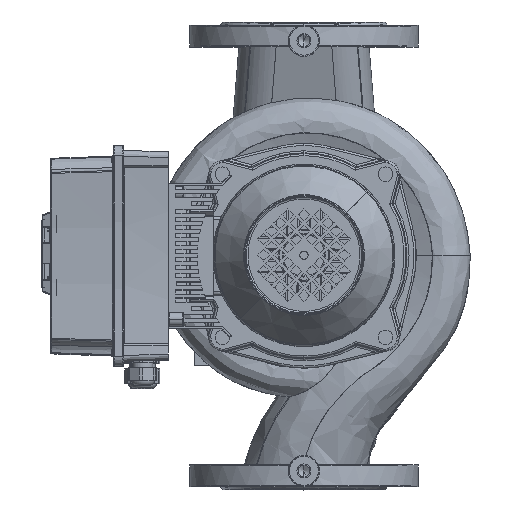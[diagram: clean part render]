
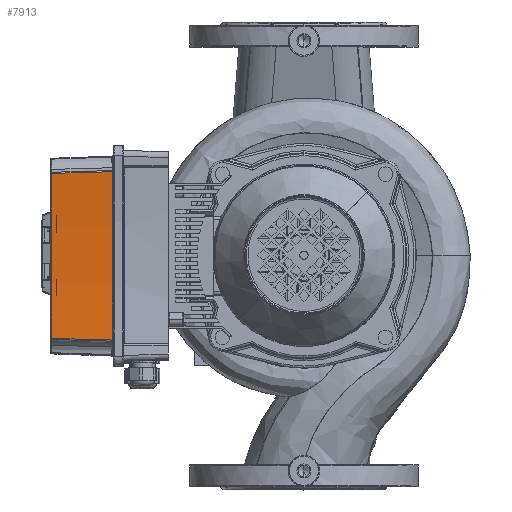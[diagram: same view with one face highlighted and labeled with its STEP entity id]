
A CAD part, top view. The second image highlights one B-rep face of the part: STEP entity #7913.
In plain terms, the highlighted conical face has half-angle 2 degrees and reference radius 845 mm.
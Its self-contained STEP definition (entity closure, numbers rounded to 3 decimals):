
#7913=ADVANCED_FACE('',(#16915),#16916,.F.);
#16915=FACE_OUTER_BOUND('',#37389,.T.);
#16916=CONICAL_SURFACE('',#37390,845.0,0.035);
#37389=EDGE_LOOP('',(#64779,#64780,#64781,#64782));
#37390=AXIS2_PLACEMENT_3D('',#64783,#64784,#64785);
#64779=ORIENTED_EDGE('',*,*,#105641,.F.);
#64780=ORIENTED_EDGE('',*,*,#105696,.F.);
#64781=ORIENTED_EDGE('',*,*,#105657,.F.);
#64782=ORIENTED_EDGE('',*,*,#105685,.F.);
#64783=CARTESIAN_POINT('',(-110.0,1132.065,60.0));
#64784=DIRECTION('',(0.,-0.0,-1.0));
#64785=DIRECTION('',(1.0,0.0,0.));
#105641=EDGE_CURVE('',#134825,#134831,#134832,.T.);
#105657=EDGE_CURVE('',#134852,#134844,#134854,.T.);
#105685=EDGE_CURVE('',#134831,#134852,#134884,.T.);
#105696=EDGE_CURVE('',#134844,#134825,#134896,.T.);
#134825=VERTEX_POINT('',#159885);
#134831=VERTEX_POINT('',#159927);
#134832=B_SPLINE_CURVE_WITH_KNOTS('',3,(#159928,#159929,#159930,#159931,#159932,#159933,#159934,#159935,#159936,#159937,#159938,#159939,#159940,#159941,#159942,#159943,#159944,#159945,#159946,#159947,#159948,#159949,#159950,#159951,#159952),.UNSPECIFIED.,.F.,.F.,(4,3,3,3,3,3,3,3,4),(-60.14,-51.629,-41.43,-35.057,-31.073,-27.089,-20.715,-10.517,-2.006),.UNSPECIFIED.);
#134844=VERTEX_POINT('',#160041);
#134852=VERTEX_POINT('',#160102);
#134854=B_SPLINE_CURVE_WITH_KNOTS('',3,(#160117,#160118,#160119,#160120,#160121,#160122,#160123,#160124,#160125,#160126,#160127,#160128,#160129,#160130,#160131,#160132,#160133,#160134,#160135,#160136,#160137,#160138,#160139,#160140,#160141),.UNSPECIFIED.,.F.,.F.,(4,3,3,3,3,3,3,3,4),(2.006,10.517,20.716,27.09,31.073,35.057,41.431,51.63,60.14),.UNSPECIFIED.);
#134884=CIRCLE('',#160332,847.062);
#134896=CIRCLE('',#160360,845.034);
#159885=CARTESIAN_POINT('',(-190.987,290.921,59.035));
#159927=CARTESIAN_POINT('',(-189.365,288.73,0.965));
#159928=CARTESIAN_POINT('',(-190.987,290.921,59.035));
#159929=CARTESIAN_POINT('',(-190.902,290.814,56.201));
#159930=CARTESIAN_POINT('',(-190.819,290.706,53.368));
#159931=CARTESIAN_POINT('',(-190.736,290.599,50.534));
#159932=CARTESIAN_POINT('',(-190.637,290.47,47.138));
#159933=CARTESIAN_POINT('',(-190.539,290.342,43.743));
#159934=CARTESIAN_POINT('',(-190.442,290.214,40.347));
#159935=CARTESIAN_POINT('',(-190.381,290.133,38.225));
#159936=CARTESIAN_POINT('',(-190.321,290.053,36.103));
#159937=CARTESIAN_POINT('',(-190.261,289.973,33.98));
#159938=CARTESIAN_POINT('',(-190.224,289.923,32.654));
#159939=CARTESIAN_POINT('',(-190.187,289.873,31.327));
#159940=CARTESIAN_POINT('',(-190.15,289.823,30.001));
#159941=CARTESIAN_POINT('',(-190.113,289.773,28.675));
#159942=CARTESIAN_POINT('',(-190.076,289.723,27.348));
#159943=CARTESIAN_POINT('',(-190.04,289.673,26.022));
#159944=CARTESIAN_POINT('',(-189.981,289.593,23.899));
#159945=CARTESIAN_POINT('',(-189.923,289.513,21.777));
#159946=CARTESIAN_POINT('',(-189.865,289.433,19.655));
#159947=CARTESIAN_POINT('',(-189.772,289.305,16.259));
#159948=CARTESIAN_POINT('',(-189.681,289.177,12.863));
#159949=CARTESIAN_POINT('',(-189.59,289.049,9.467));
#159950=CARTESIAN_POINT('',(-189.515,288.943,6.633));
#159951=CARTESIAN_POINT('',(-189.44,288.836,3.799));
#159952=CARTESIAN_POINT('',(-189.365,288.73,0.965));
#160041=CARTESIAN_POINT('',(-29.013,290.921,59.035));
#160102=CARTESIAN_POINT('',(-30.635,288.73,0.965));
#160117=CARTESIAN_POINT('',(-30.635,288.73,0.965));
#160118=CARTESIAN_POINT('',(-30.56,288.836,3.799));
#160119=CARTESIAN_POINT('',(-30.485,288.943,6.633));
#160120=CARTESIAN_POINT('',(-30.41,289.049,9.467));
#160121=CARTESIAN_POINT('',(-30.319,289.177,12.863));
#160122=CARTESIAN_POINT('',(-30.228,289.305,16.259));
#160123=CARTESIAN_POINT('',(-30.135,289.433,19.654));
#160124=CARTESIAN_POINT('',(-30.077,289.513,21.777));
#160125=CARTESIAN_POINT('',(-30.019,289.593,23.899));
#160126=CARTESIAN_POINT('',(-29.96,289.673,26.022));
#160127=CARTESIAN_POINT('',(-29.924,289.723,27.348));
#160128=CARTESIAN_POINT('',(-29.887,289.773,28.674));
#160129=CARTESIAN_POINT('',(-29.85,289.823,30.001));
#160130=CARTESIAN_POINT('',(-29.813,289.873,31.327));
#160131=CARTESIAN_POINT('',(-29.776,289.923,32.654));
#160132=CARTESIAN_POINT('',(-29.739,289.973,33.98));
#160133=CARTESIAN_POINT('',(-29.679,290.053,36.103));
#160134=CARTESIAN_POINT('',(-29.619,290.133,38.225));
#160135=CARTESIAN_POINT('',(-29.558,290.214,40.347));
#160136=CARTESIAN_POINT('',(-29.461,290.342,43.743));
#160137=CARTESIAN_POINT('',(-29.363,290.47,47.139));
#160138=CARTESIAN_POINT('',(-29.264,290.599,50.534));
#160139=CARTESIAN_POINT('',(-29.181,290.706,53.368));
#160140=CARTESIAN_POINT('',(-29.098,290.814,56.201));
#160141=CARTESIAN_POINT('',(-29.013,290.921,59.035));
#160332=AXIS2_PLACEMENT_3D('',#193214,#193215,#193216);
#160360=AXIS2_PLACEMENT_3D('',#193226,#193227,#193228);
#193214=CARTESIAN_POINT('',(-110.0,1132.065,0.965));
#193215=DIRECTION('',(0.,0.,1.0));
#193216=DIRECTION('',(0.0,-1.0,0.));
#193226=CARTESIAN_POINT('',(-110.0,1132.065,59.035));
#193227=DIRECTION('',(-0.0,-0.0,-1.0));
#193228=DIRECTION('',(0.0,-1.0,0.0));
